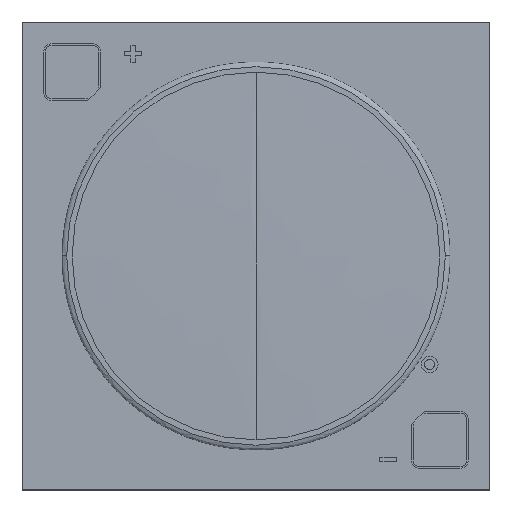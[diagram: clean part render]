
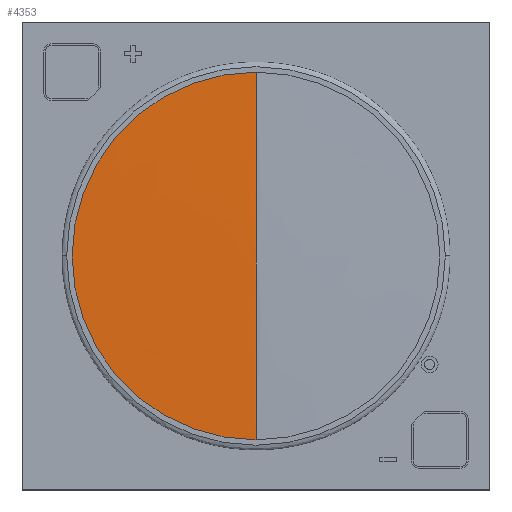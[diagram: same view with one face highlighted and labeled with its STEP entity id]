
A CAD part, top view. The second image highlights one B-rep face of the part: STEP entity #4353.
In plain terms, the highlighted free-form (B-spline) face has degree [2, 3] with [3, 4] control points.
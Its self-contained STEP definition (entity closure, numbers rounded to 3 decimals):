
#135 = CARTESIAN_POINT ( 'NONE',  ( 0., 0., 0.1 ) ) ;
#173 = VERTEX_POINT ( 'NONE', #3747 ) ;
#430 =( BOUNDED_SURFACE ( )  B_SPLINE_SURFACE ( 2, 3, ( 
 ( #4477, #4128, #3091, #1042 ),
 ( #3430, #1394, #3795, #1736 ),
 ( #4145, #2090, #4491, #2436 ) ),
 .UNSPECIFIED., .F., .F., .F. ) 
 B_SPLINE_SURFACE_WITH_KNOTS ( ( 3, 3 ),
 ( 4, 4 ),
 ( 0., 1. ),
 ( 0., 1. ),
 .UNSPECIFIED. ) 
 GEOMETRIC_REPRESENTATION_ITEM ( )  RATIONAL_B_SPLINE_SURFACE ( (
 ( 1., 0.333, 0.333, 1.),
 ( 1., 0.333, 0.333, 1.),
 ( 1., 0.333, 0.333, 1.) ) ) 
 REPRESENTATION_ITEM ( '' )  SURFACE ( )  );
#664 = ORIENTED_EDGE ( 'NONE', *, *, #1887, .F. ) ;
#725 = FACE_OUTER_BOUND ( 'NONE', #1035, .T. ) ;
#732 = B_SPLINE_CURVE_WITH_KNOTS ( 'NONE', 2,
 ( #3925, #2227, #135 ),
 .UNSPECIFIED., .F., .F.,
 ( 3, 3 ),
 ( 0., 1. ),
 .UNSPECIFIED. ) ;
#807 = CARTESIAN_POINT ( 'NONE',  ( 0., -5.5, 0.101 ) ) ;
#841 = CARTESIAN_POINT ( 'NONE',  ( 0., 11., 0. ) ) ;
#1035 = EDGE_LOOP ( 'NONE', ( #3710, #2839, #664 ) ) ;
#1042 = CARTESIAN_POINT ( 'NONE',  ( 0., -11., 0. ) ) ;
#1134 = CARTESIAN_POINT ( 'NONE',  ( 0., 0., 0.1 ) ) ;
#1149 = CARTESIAN_POINT ( 'NONE',  ( 0., -11., 0. ) ) ;
#1297 = AXIS2_PLACEMENT_3D ( 'NONE', #1389, #3792, #1732 ) ;
#1389 = CARTESIAN_POINT ( 'NONE',  ( 0., 0., 0. ) ) ;
#1394 = CARTESIAN_POINT ( 'NONE',  ( -11., 5.5, 0.101 ) ) ;
#1732 = DIRECTION ( 'NONE',  ( 1., 0., 0. ) ) ;
#1736 = CARTESIAN_POINT ( 'NONE',  ( 0., -5.5, 0.101 ) ) ;
#1770 = VERTEX_POINT ( 'NONE', #1134 ) ;
#1887 = EDGE_CURVE ( 'NONE', #3221, #1770, #732, .T. ) ;
#2090 = CARTESIAN_POINT ( 'NONE',  ( 0., 0., 0.1 ) ) ;
#2155 = CIRCLE ( 'NONE', #1297, 11. ) ;
#2212 = CARTESIAN_POINT ( 'NONE',  ( 0., 0., 0.1 ) ) ;
#2227 = CARTESIAN_POINT ( 'NONE',  ( 0., 5.5, 0.101 ) ) ;
#2436 = CARTESIAN_POINT ( 'NONE',  ( 0., 0., 0.1 ) ) ;
#2839 = ORIENTED_EDGE ( 'NONE', *, *, #3902, .T. ) ;
#2890 = EDGE_CURVE ( 'NONE', #3221, #173, #2155, .T. ) ;
#3091 = CARTESIAN_POINT ( 'NONE',  ( -22., -11., 0. ) ) ;
#3221 = VERTEX_POINT ( 'NONE', #841 ) ;
#3430 = CARTESIAN_POINT ( 'NONE',  ( 0., 5.5, 0.101 ) ) ;
#3710 = ORIENTED_EDGE ( 'NONE', *, *, #2890, .T. ) ;
#3747 = CARTESIAN_POINT ( 'NONE',  ( 0., -11., 0. ) ) ;
#3792 = DIRECTION ( 'NONE',  ( 0., 0., 1. ) ) ;
#3795 = CARTESIAN_POINT ( 'NONE',  ( -11., -5.5, 0.101 ) ) ;
#3902 = EDGE_CURVE ( 'NONE', #173, #1770, #4469, .T. ) ;
#3925 = CARTESIAN_POINT ( 'NONE',  ( 0., 11., 0. ) ) ;
#4128 = CARTESIAN_POINT ( 'NONE',  ( -22., 11., 0. ) ) ;
#4145 = CARTESIAN_POINT ( 'NONE',  ( 0., 0., 0.1 ) ) ;
#4353 = ADVANCED_FACE ( 'NONE', ( #725 ), #430, .F. ) ;
#4469 = B_SPLINE_CURVE_WITH_KNOTS ( 'NONE', 2,
 ( #1149, #807, #2212 ),
 .UNSPECIFIED., .F., .F.,
 ( 3, 3 ),
 ( 0., 1. ),
 .UNSPECIFIED. ) ;
#4477 = CARTESIAN_POINT ( 'NONE',  ( 0., 11., 0. ) ) ;
#4491 = CARTESIAN_POINT ( 'NONE',  ( 0., 0., 0.1 ) ) ;
